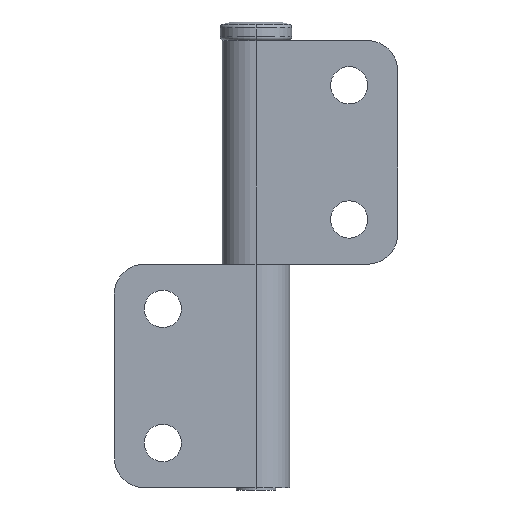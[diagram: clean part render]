
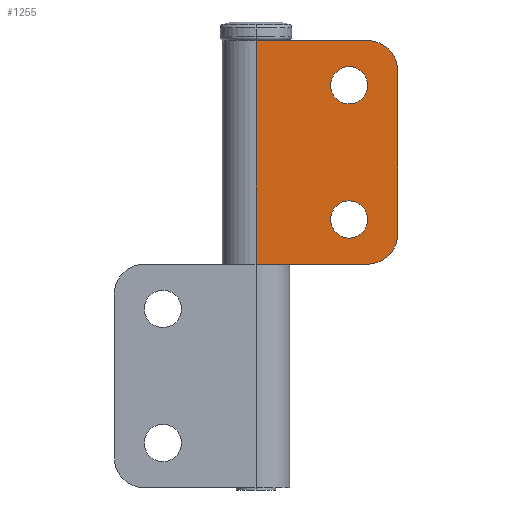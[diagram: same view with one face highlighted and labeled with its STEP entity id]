
A CAD part, front view. The second image highlights one B-rep face of the part: STEP entity #1255.
In plain terms, the highlighted planar face has unit normal (0, -1, 0).
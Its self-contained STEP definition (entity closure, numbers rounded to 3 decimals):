
#4 = CARTESIAN_POINT ( 'NONE',  ( 15., -4.5, -9. ) ) ;
#9 = DIRECTION ( 'NONE',  ( -1., 0., 0. ) ) ;
#13 = CARTESIAN_POINT ( 'NONE',  ( 0., -4.5, 15. ) ) ;
#16 = PLANE ( 'NONE',  #1437 ) ;
#27 = DIRECTION ( 'NONE',  ( 0., 1., 0. ) ) ;
#74 = CARTESIAN_POINT ( 'NONE',  ( 19., -4.5, 11. ) ) ;
#122 = ORIENTED_EDGE ( 'NONE', *, *, #1998, .T. ) ;
#127 = ORIENTED_EDGE ( 'NONE', *, *, #1996, .T. ) ;
#135 = CARTESIAN_POINT ( 'NONE',  ( 0., -4.5, -15. ) ) ;
#166 = ORIENTED_EDGE ( 'NONE', *, *, #1935, .T. ) ;
#176 = ORIENTED_EDGE ( 'NONE', *, *, #1944, .T. ) ;
#181 = ORIENTED_EDGE ( 'NONE', *, *, #1999, .F. ) ;
#184 = CARTESIAN_POINT ( 'NONE',  ( 15., -4.5, 15. ) ) ;
#189 = ORIENTED_EDGE ( 'NONE', *, *, #2002, .T. ) ;
#191 = VERTEX_POINT ( 'NONE', #2006 ) ;
#199 = CARTESIAN_POINT ( 'NONE',  ( 10., -4.5, -9. ) ) ;
#219 = ORIENTED_EDGE ( 'NONE', *, *, #2003, .F. ) ;
#244 = ORIENTED_EDGE ( 'NONE', *, *, #1975, .T. ) ;
#245 = CARTESIAN_POINT ( 'NONE',  ( 15., -4.5, 9. ) ) ;
#248 = ORIENTED_EDGE ( 'NONE', *, *, #2007, .T. ) ;
#258 = CARTESIAN_POINT ( 'NONE',  ( 15., -4.5, -15. ) ) ;
#265 = ORIENTED_EDGE ( 'NONE', *, *, #2013, .T. ) ;
#299 = VERTEX_POINT ( 'NONE', #184 ) ;
#314 = CARTESIAN_POINT ( 'NONE',  ( 19., -4.5, -11. ) ) ;
#325 = CARTESIAN_POINT ( 'NONE',  ( 0., -4.5, 15. ) ) ;
#404 = DIRECTION ( 'NONE',  ( -1., 0., 0. ) ) ;
#418 = DIRECTION ( 'NONE',  ( 0., -1., 0. ) ) ;
#422 = CARTESIAN_POINT ( 'NONE',  ( 15., -4.5, -11. ) ) ;
#455 = DIRECTION ( 'NONE',  ( 1., 0., 0. ) ) ;
#457 = EDGE_LOOP ( 'NONE', ( #122, #176 ) ) ;
#460 = EDGE_LOOP ( 'NONE', ( #127, #166 ) ) ;
#464 = CARTESIAN_POINT ( 'NONE',  ( 0., -4.5, -15. ) ) ;
#472 = DIRECTION ( 'NONE',  ( -1., 0., 0. ) ) ;
#475 = DIRECTION ( 'NONE',  ( 0., -1., 0. ) ) ;
#480 = CARTESIAN_POINT ( 'NONE',  ( 15., -4.5, 11. ) ) ;
#483 = VERTEX_POINT ( 'NONE', #258 ) ;
#495 = CARTESIAN_POINT ( 'NONE',  ( 0., -4.5, 15. ) ) ;
#499 = DIRECTION ( 'NONE',  ( -1., 0., 0. ) ) ;
#500 = DIRECTION ( 'NONE',  ( 0., 1., 0. ) ) ;
#506 = VERTEX_POINT ( 'NONE', #245 ) ;
#520 = CARTESIAN_POINT ( 'NONE',  ( 12.5, -4.5, -9. ) ) ;
#528 = DIRECTION ( 'NONE',  ( 1., 0., 0. ) ) ;
#532 = DIRECTION ( 'NONE',  ( -1., 0., 0. ) ) ;
#539 = DIRECTION ( 'NONE',  ( 0., 1., 0. ) ) ;
#545 = CARTESIAN_POINT ( 'NONE',  ( 12.5, -4.5, 9. ) ) ;
#547 = EDGE_LOOP ( 'NONE', ( #181, #189, #219, #244, #248, #265 ) ) ;
#548 = DIRECTION ( 'NONE',  ( 0., 0., -1. ) ) ;
#550 = CARTESIAN_POINT ( 'NONE',  ( 19., -4.5, 15. ) ) ;
#552 = VERTEX_POINT ( 'NONE', #199 ) ;
#599 = VERTEX_POINT ( 'NONE', #325 ) ;
#602 = VERTEX_POINT ( 'NONE', #314 ) ;
#676 = DIRECTION ( 'NONE',  ( 0., 0., -1. ) ) ;
#686 = CARTESIAN_POINT ( 'NONE',  ( 0., -4.5, 15. ) ) ;
#761 = VERTEX_POINT ( 'NONE', #135 ) ;
#1136 = DIRECTION ( 'NONE',  ( -1., 0., 0. ) ) ;
#1142 = DIRECTION ( 'NONE',  ( 0., 1., 0. ) ) ;
#1143 = CARTESIAN_POINT ( 'NONE',  ( 12.5, -4.5, -9. ) ) ;
#1150 = VERTEX_POINT ( 'NONE', #74 ) ;
#1156 = AXIS2_PLACEMENT_3D ( 'NONE', #422, #418, #404 ) ;
#1162 = AXIS2_PLACEMENT_3D ( 'NONE', #480, #475, #472 ) ;
#1163 = AXIS2_PLACEMENT_3D ( 'NONE', #520, #500, #499 ) ;
#1164 = AXIS2_PLACEMENT_3D ( 'NONE', #545, #539, #532 ) ;
#1169 = DIRECTION ( 'NONE',  ( -1., 0., 0. ) ) ;
#1170 = DIRECTION ( 'NONE',  ( 0., 1., 0. ) ) ;
#1173 = CARTESIAN_POINT ( 'NONE',  ( 12.5, -4.5, 9. ) ) ;
#1194 = AXIS2_PLACEMENT_3D ( 'NONE', #1143, #1142, #1136 ) ;
#1206 = AXIS2_PLACEMENT_3D ( 'NONE', #1173, #1170, #1169 ) ;
#1255 = ADVANCED_FACE ( 'NONE', ( #1964, #1967, #1978 ), #16, .F. ) ;
#1331 = VECTOR ( 'NONE', #455, 1000. ) ;
#1333 = CIRCLE ( 'NONE', #1156, 4. ) ;
#1335 = VECTOR ( 'NONE', #528, 1000. ) ;
#1339 = LINE ( 'NONE', #464, #1331 ) ;
#1342 = LINE ( 'NONE', #495, #1335 ) ;
#1343 = VECTOR ( 'NONE', #548, 1000. ) ;
#1349 = LINE ( 'NONE', #550, #1343 ) ;
#1350 = CIRCLE ( 'NONE', #1163, 2.5 ) ;
#1354 = CIRCLE ( 'NONE', #1164, 2.5 ) ;
#1358 = VERTEX_POINT ( 'NONE', #4 ) ;
#1360 = CIRCLE ( 'NONE', #1162, 4. ) ;
#1370 = VECTOR ( 'NONE', #676, 1000. ) ;
#1376 = LINE ( 'NONE', #686, #1370 ) ;
#1427 = CIRCLE ( 'NONE', #1194, 2.5 ) ;
#1428 = CIRCLE ( 'NONE', #1206, 2.5 ) ;
#1437 = AXIS2_PLACEMENT_3D ( 'NONE', #13, #27, #9 ) ;
#1935 = EDGE_CURVE ( 'NONE', #506, #191, #1428, .T. ) ;
#1944 = EDGE_CURVE ( 'NONE', #1358, #552, #1427, .T. ) ;
#1964 = FACE_BOUND ( 'NONE', #460, .T. ) ;
#1967 = FACE_BOUND ( 'NONE', #457, .T. ) ;
#1975 = EDGE_CURVE ( 'NONE', #599, #761, #1376, .T. ) ;
#1978 = FACE_OUTER_BOUND ( 'NONE', #547, .T. ) ;
#1996 = EDGE_CURVE ( 'NONE', #191, #506, #1354, .T. ) ;
#1998 = EDGE_CURVE ( 'NONE', #552, #1358, #1350, .T. ) ;
#1999 = EDGE_CURVE ( 'NONE', #1150, #602, #1349, .T. ) ;
#2002 = EDGE_CURVE ( 'NONE', #1150, #299, #1360, .T. ) ;
#2003 = EDGE_CURVE ( 'NONE', #599, #299, #1342, .T. ) ;
#2006 = CARTESIAN_POINT ( 'NONE',  ( 10., -4.5, 9. ) ) ;
#2007 = EDGE_CURVE ( 'NONE', #761, #483, #1339, .T. ) ;
#2013 = EDGE_CURVE ( 'NONE', #483, #602, #1333, .T. ) ;
